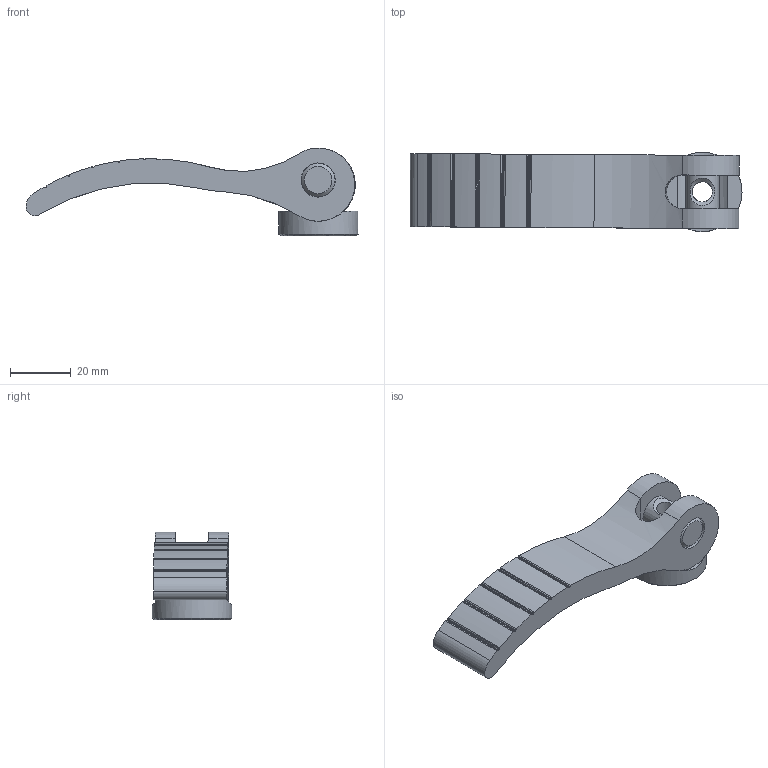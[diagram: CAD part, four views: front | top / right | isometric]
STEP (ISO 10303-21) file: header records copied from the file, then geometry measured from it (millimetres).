
FILE_DESCRIPTION(('STEP AP203'), '1');
FILE_NAME('À00360.111080800 _ Ýêñöåíòðèê 108 ìì', '', ('UNSPECIFIED'), ('UNSPECIFIED'), 'C3D Converter', 'C3D Toolkit', '');
FILE_SCHEMA(('CONFIG_CONTROL_DESIGN'));
Length unit declared in the file: millimetre
Products named in the file (4): А00360.108.03; А00360.108.02; А00360.108.01
Assembly tree (3 placements, depth 2):
  (unnamed)
    А00360.108.03
    А00360.108.02
    А00360.108.01
Bounding box: 108.87 x 26 x 28.77 mm (x, y, z)
Volume: 26125.3 mm3; surface area: 11290.2 mm2
Topology: 3 solids, 3 shells, 61 faces, 162 edges, 107 vertices
Faces by surface type: cylinder 37, plane 19, cone 3, bspline 2
Full cylindrical faces by diameter (mm): 6.647 x1, 10.5 x1, 11 x1, 11.2 x2, 26 x1
Entity records: 3913 total; most frequent: CARTESIAN_POINT 2191, DIRECTION 338, ORIENTED_EDGE 298, EDGE_CURVE 149, AXIS2_PLACEMENT_3D 137, VERTEX_POINT 105, EDGE_LOOP 80, CIRCLE 74
